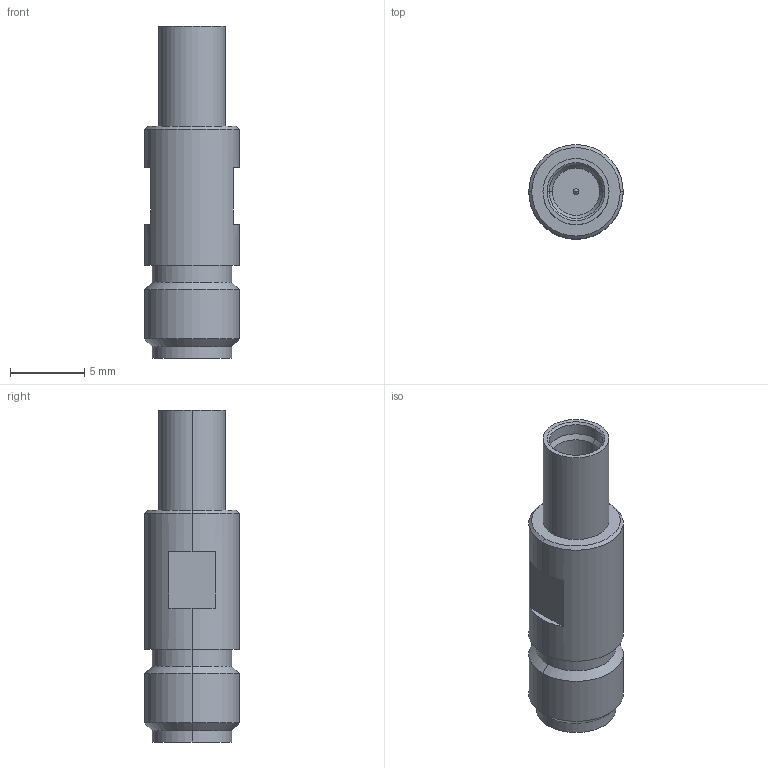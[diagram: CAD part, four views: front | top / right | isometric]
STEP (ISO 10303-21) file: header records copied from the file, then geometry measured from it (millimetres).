
FILE_DESCRIPTION (( 'STEP AP214' ), '1' );
FILE_NAME ('SF1112-6031.STEP', '2015-06-08T15:57:08', ( 'image' ), ( '' ), 'SwSTEP 2.0', 'SolidWorks 2014', '' );
FILE_SCHEMA (( 'AUTOMOTIVE_DESIGN' ));
Length unit declared in the file: inch
Products named in the file (1): SF1112-6031
Bounding box: 6.35 x 6.35 x 22.31 mm (x, y, z)
Volume: 511 mm3; surface area: 523.1 mm2
Topology: 1 solids, 1 shells, 45 faces, 94 edges, 56 vertices
Faces by surface type: cylinder 18, plane 13, cone 12, torus 2
Entity records: 1814 total; most frequent: DIRECTION 240, CARTESIAN_POINT 196, ORIENTED_EDGE 188, AXIS2_PLACEMENT_3D 100, EDGE_CURVE 94, VERTEX_POINT 56, CIRCLE 54, EDGE_LOOP 50
